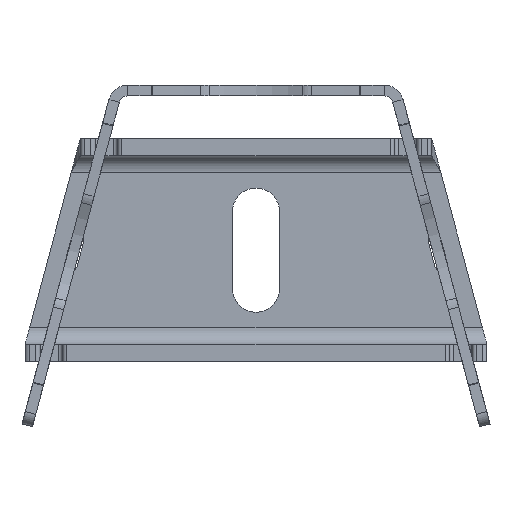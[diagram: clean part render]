
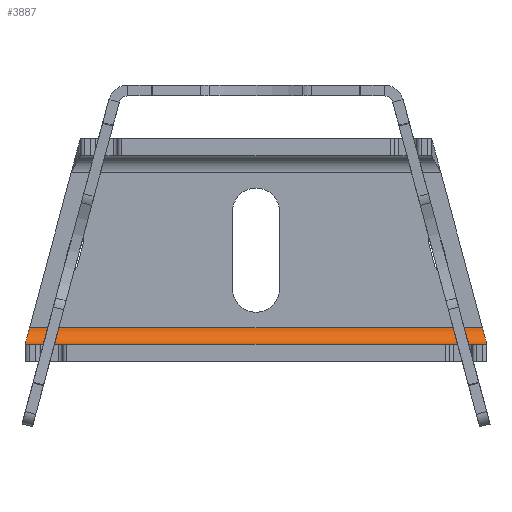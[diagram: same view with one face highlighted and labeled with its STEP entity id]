
A CAD part, front view. The second image highlights one B-rep face of the part: STEP entity #3887.
In plain terms, the highlighted cylindrical face has radius 3.9 mm (diameter 7.8 mm), a partial arc.
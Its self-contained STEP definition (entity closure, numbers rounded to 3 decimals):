
#2244 = CARTESIAN_POINT ( 'NONE',  ( 18.1, 0., 55. ) ) ;
#2245 = DIRECTION ( 'NONE',  ( 0., 0., -1. ) ) ;
#3023 = CARTESIAN_POINT ( 'NONE',  ( 22., -3.9, 55. ) ) ;
#3028 = DIRECTION ( 'NONE',  ( 0., 0., -1. ) ) ;
#3232 = CARTESIAN_POINT ( 'NONE',  ( 22., -1.615, -53.911 ) ) ;
#3236 = CARTESIAN_POINT ( 'NONE',  ( 18.1, 0., 52.866 ) ) ;
#3237 = CARTESIAN_POINT ( 'NONE',  ( 20.385, 0., 53.478 ) ) ;
#3238 = CARTESIAN_POINT ( 'NONE',  ( 22., -1.615, 53.911 ) ) ;
#3239 = CARTESIAN_POINT ( 'NONE',  ( 22., -3.9, 53.911 ) ) ;
#3240 = CARTESIAN_POINT ( 'NONE',  ( 20.385, 0., -53.478 ) ) ;
#3241 = CARTESIAN_POINT ( 'NONE',  ( 18.1, 0., -52.866 ) ) ;
#3242 = CARTESIAN_POINT ( 'NONE',  ( 22., -3.9, -53.911 ) ) ;
#3562 = CARTESIAN_POINT ( 'NONE',  ( 22., -3.9, -53.911 ) ) ;
#3571 = CARTESIAN_POINT ( 'NONE',  ( 18.1, 0., -52.866 ) ) ;
#3587 = CARTESIAN_POINT ( 'NONE',  ( 18.1, 0., 52.866 ) ) ;
#3607 = CARTESIAN_POINT ( 'NONE',  ( 22., -3.9, 53.911 ) ) ;
#3887 = ADVANCED_FACE ( 'NONE', ( #7685 ), #7688, .F. ) ;
#4575 = EDGE_CURVE ( 'NONE', #11980, #11964, #10445, .T. ) ;
#6182 = CARTESIAN_POINT ( 'NONE',  ( 18.1, -3.9, 55. ) ) ;
#6185 = DIRECTION ( 'NONE',  ( -1., 0., 0. ) ) ;
#6187 = DIRECTION ( 'NONE',  ( 0., 0., -1. ) ) ;
#6973 = EDGE_CURVE ( 'NONE', #12000, #11955, #11012, .T. ) ;
#7054 = EDGE_CURVE ( 'NONE', #11980, #12000, #8227, .T. ) ;
#7055 = EDGE_CURVE ( 'NONE', #11964, #11955, #8228, .T. ) ;
#7394 = AXIS2_PLACEMENT_3D ( 'NONE', #6182, #6187, #6185 ) ;
#7685 = FACE_OUTER_BOUND ( 'NONE', #12304, .T. ) ;
#7688 = CYLINDRICAL_SURFACE ( 'NONE', #7394, 3.9 ) ;
#8227 =( BOUNDED_CURVE ( )  B_SPLINE_CURVE ( 3, ( #3236, #3237, #3238, #3239 ),
 .UNSPECIFIED., .F., .F. ) 
 B_SPLINE_CURVE_WITH_KNOTS ( ( 4, 4 ),
 ( 1.571, 3.142 ),
 .UNSPECIFIED. ) 
 CURVE ( )  GEOMETRIC_REPRESENTATION_ITEM ( )  RATIONAL_B_SPLINE_CURVE ( ( 1., 0.805, 0.805, 1. ) ) 
 REPRESENTATION_ITEM ( '' )  );
#8228 =( BOUNDED_CURVE ( )  B_SPLINE_CURVE ( 3, ( #3241, #3240, #3232, #3242 ),
 .UNSPECIFIED., .F., .F. ) 
 B_SPLINE_CURVE_WITH_KNOTS ( ( 4, 4 ),
 ( 4.712, 6.283 ),
 .UNSPECIFIED. ) 
 CURVE ( )  GEOMETRIC_REPRESENTATION_ITEM ( )  RATIONAL_B_SPLINE_CURVE ( ( 1., 0.805, 0.805, 1. ) ) 
 REPRESENTATION_ITEM ( '' )  );
#10445 = LINE ( 'NONE', #2244, #10448 ) ;
#10448 = VECTOR ( 'NONE', #2245, 1000. ) ;
#11012 = LINE ( 'NONE', #3023, #11019 ) ;
#11019 = VECTOR ( 'NONE', #3028, 1000. ) ;
#11879 = ORIENTED_EDGE ( 'NONE', *, *, #7054, .F. ) ;
#11880 = ORIENTED_EDGE ( 'NONE', *, *, #4575, .T. ) ;
#11881 = ORIENTED_EDGE ( 'NONE', *, *, #7055, .T. ) ;
#11882 = ORIENTED_EDGE ( 'NONE', *, *, #6973, .F. ) ;
#11955 = VERTEX_POINT ( 'NONE', #3562 ) ;
#11964 = VERTEX_POINT ( 'NONE', #3571 ) ;
#11980 = VERTEX_POINT ( 'NONE', #3587 ) ;
#12000 = VERTEX_POINT ( 'NONE', #3607 ) ;
#12304 = EDGE_LOOP ( 'NONE', ( #11879, #11880, #11881, #11882 ) ) ;
